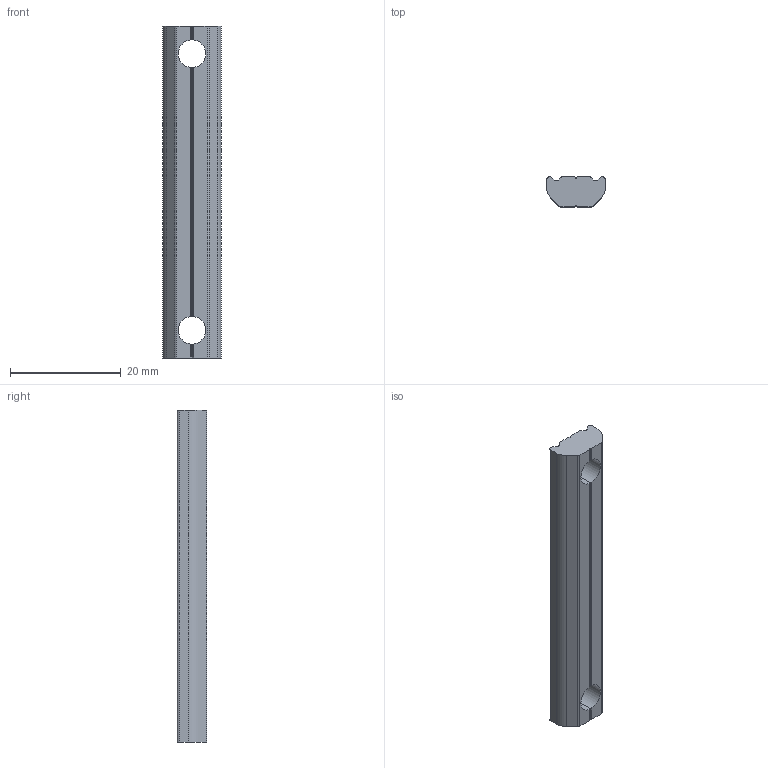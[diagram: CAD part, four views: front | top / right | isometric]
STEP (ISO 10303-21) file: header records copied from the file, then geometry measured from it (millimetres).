
FILE_DESCRIPTION (( 'STEP AP214' ), '1' );
FILE_NAME ('PTN-M5P50.STEP', '2019-10-30T02:34:23', ( '微软用户' ), ( '微软中国' ), 'SwSTEP 2.0', 'SolidWorks 2016', '' );
FILE_SCHEMA (( 'AUTOMOTIVE_DESIGN' ));
Length unit declared in the file: millimetre
Products named in the file (1): PTN-M5P50
Bounding box: 10.6 x 5.4 x 60 mm (x, y, z)
Volume: 2753.1 mm3; surface area: 1987.2 mm2
Topology: 1 solids, 1 shells, 50 faces, 156 edges, 104 vertices
Faces by surface type: plane 28, cylinder 22
Entity records: 1890 total; most frequent: CARTESIAN_POINT 503, ORIENTED_EDGE 312, DIRECTION 262, EDGE_CURVE 156, VERTEX_POINT 104, VECTOR 88, LINE 88, AXIS2_PLACEMENT_3D 87
